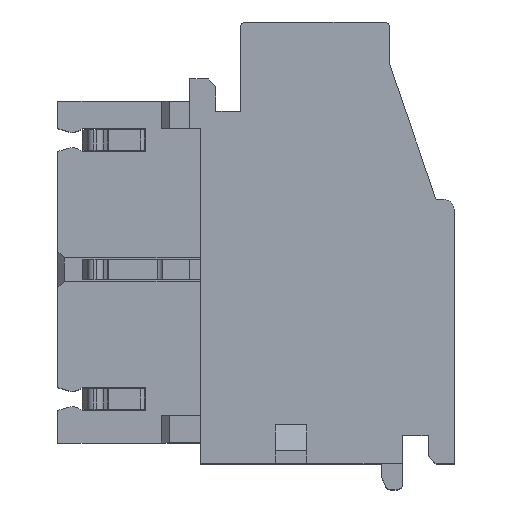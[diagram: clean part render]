
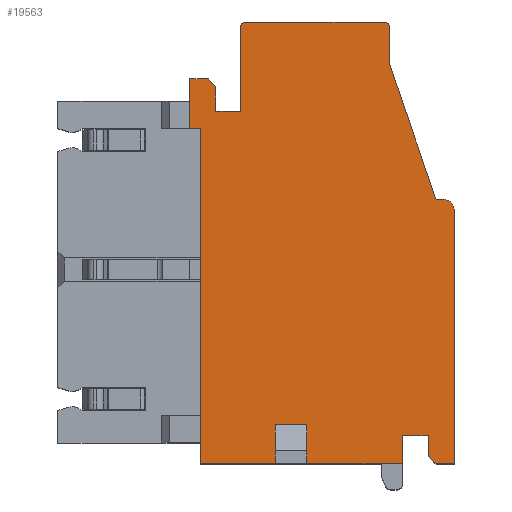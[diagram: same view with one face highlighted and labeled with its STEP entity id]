
A CAD part, top view. The second image highlights one B-rep face of the part: STEP entity #19563.
In plain terms, the highlighted planar face has unit normal (0, 0, 1).
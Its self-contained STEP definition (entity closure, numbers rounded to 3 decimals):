
#1=DIRECTION('',(-0.707,0.707,0.));
#2=VECTOR('',#1,0.424);
#3=CARTESIAN_POINT('',(0.6,14.55,7.5));
#4=LINE('',#3,#2);
#5=CARTESIAN_POINT('',(1.75,16.85,7.5));
#6=DIRECTION('',(0.,0.,1.));
#7=DIRECTION('',(0.,1.,0.));
#8=AXIS2_PLACEMENT_3D('',#5,#6,#7);
#10=CARTESIAN_POINT('',(7.1,16.85,7.5));
#11=DIRECTION('',(0.,0.,1.));
#12=DIRECTION('',(1.,0.,0.));
#13=AXIS2_PLACEMENT_3D('',#10,#11,#12);
#15=DIRECTION('',(-0.324,0.946,0.));
#16=VECTOR('',#15,5.55);
#17=CARTESIAN_POINT('',(9.1,10.2,7.5));
#18=LINE('',#17,#16);
#19=CARTESIAN_POINT('',(9.4,9.8,7.5));
#20=DIRECTION('',(0.,0.,1.));
#21=DIRECTION('',(1.,0.,0.));
#22=AXIS2_PLACEMENT_3D('',#19,#20,#21);
#24=DIRECTION('',(0.707,-0.707,0.));
#25=VECTOR('',#24,0.424);
#26=CARTESIAN_POINT('',(8.8,0.3,7.5));
#27=LINE('',#26,#25);
#28=DIRECTION('',(-1.,0.,0.));
#29=VECTOR('',#28,2.9);
#30=CARTESIAN_POINT('',(2.9,0.,7.5));
#31=LINE('',#30,#29);
#36=DIRECTION('',(-1.,0.,0.));
#37=VECTOR('',#36,3.7);
#38=CARTESIAN_POINT('',(7.8,0.,7.5));
#39=LINE('',#38,#37);
#151=DIRECTION('',(0.,1.,0.));
#152=VECTOR('',#151,0.8);
#153=CARTESIAN_POINT('',(8.8,0.3,7.5));
#154=LINE('',#153,#152);
#171=DIRECTION('',(-1.,0.,0.));
#172=VECTOR('',#171,1.);
#173=CARTESIAN_POINT('',(8.8,1.1,7.5));
#174=LINE('',#173,#172);
#179=DIRECTION('',(0.,-1.,0.));
#180=VECTOR('',#179,1.1);
#181=CARTESIAN_POINT('',(7.8,1.1,7.5));
#182=LINE('',#181,#180);
#699=DIRECTION('',(1.,0.,0.));
#700=VECTOR('',#699,5.35);
#701=CARTESIAN_POINT('',(1.75,17.05,7.5));
#702=LINE('',#701,#700);
#5087=DIRECTION('',(0.,-1.,0.));
#5088=VECTOR('',#5087,9.8);
#5089=CARTESIAN_POINT('',(9.8,9.8,7.5));
#5090=LINE('',#5089,#5088);
#10109=DIRECTION('',(0.,1.,0.));
#10110=VECTOR('',#10109,12.95);
#10111=CARTESIAN_POINT('',(0.,0.,7.5));
#10112=LINE('',#10111,#10110);
#10233=DIRECTION('',(-1.,0.,0.));
#10234=VECTOR('',#10233,0.4);
#10235=CARTESIAN_POINT('',(0.,12.95,7.5));
#10236=LINE('',#10235,#10234);
#11625=DIRECTION('',(0.,1.,0.));
#11626=VECTOR('',#11625,1.9);
#11627=CARTESIAN_POINT('',(-0.4,12.95,7.5));
#11628=LINE('',#11627,#11626);
#11637=DIRECTION('',(1.,0.,0.));
#11638=VECTOR('',#11637,0.7);
#11639=CARTESIAN_POINT('',(-0.4,14.85,7.5));
#11640=LINE('',#11639,#11638);
#11645=DIRECTION('',(0.,-1.,0.));
#11646=VECTOR('',#11645,0.95);
#11647=CARTESIAN_POINT('',(0.6,14.55,7.5));
#11648=LINE('',#11647,#11646);
#11661=DIRECTION('',(1.,0.,0.));
#11662=VECTOR('',#11661,0.95);
#11663=CARTESIAN_POINT('',(0.6,13.6,7.5));
#11664=LINE('',#11663,#11662);
#11669=DIRECTION('',(0.,1.,0.));
#11670=VECTOR('',#11669,3.25);
#11671=CARTESIAN_POINT('',(1.55,13.6,7.5));
#11672=LINE('',#11671,#11670);
#16075=DIRECTION('',(-1.,0.,0.));
#16076=VECTOR('',#16075,0.7);
#16077=CARTESIAN_POINT('',(9.8,0.,7.5));
#16078=LINE('',#16077,#16076);
#16091=DIRECTION('',(1.,0.,0.));
#16092=VECTOR('',#16091,0.3);
#16093=CARTESIAN_POINT('',(9.1,10.2,7.5));
#16094=LINE('',#16093,#16092);
#16107=DIRECTION('',(0.,-1.,0.));
#16108=VECTOR('',#16107,1.4);
#16109=CARTESIAN_POINT('',(7.3,16.85,7.5));
#16110=LINE('',#16109,#16108);
#16589=DIRECTION('',(0.,-1.,0.));
#16590=VECTOR('',#16589,1.5);
#16591=CARTESIAN_POINT('',(2.9,1.5,7.5));
#16592=LINE('',#16591,#16590);
#16597=DIRECTION('',(-1.,0.,0.));
#16598=VECTOR('',#16597,1.2);
#16599=CARTESIAN_POINT('',(4.1,1.5,7.5));
#16600=LINE('',#16599,#16598);
#16605=DIRECTION('',(0.,1.,0.));
#16606=VECTOR('',#16605,1.5);
#16607=CARTESIAN_POINT('',(4.1,0.,7.5));
#16608=LINE('',#16607,#16606);
#16625=CARTESIAN_POINT('',(4.1,0.,7.5));
#16626=CARTESIAN_POINT('',(4.1,1.5,7.5));
#16627=VERTEX_POINT('',#16625);
#16628=VERTEX_POINT('',#16626);
#16629=CARTESIAN_POINT('',(2.9,1.5,7.5));
#16630=VERTEX_POINT('',#16629);
#16631=CARTESIAN_POINT('',(2.9,0.,7.5));
#16632=VERTEX_POINT('',#16631);
#16633=CARTESIAN_POINT('',(0.,0.,7.5));
#16634=VERTEX_POINT('',#16633);
#16635=CARTESIAN_POINT('',(0.,12.95,7.5));
#16636=VERTEX_POINT('',#16635);
#16637=CARTESIAN_POINT('',(-0.4,12.95,7.5));
#16638=VERTEX_POINT('',#16637);
#16639=CARTESIAN_POINT('',(-0.4,14.85,7.5));
#16640=VERTEX_POINT('',#16639);
#16641=CARTESIAN_POINT('',(0.3,14.85,7.5));
#16642=VERTEX_POINT('',#16641);
#16643=CARTESIAN_POINT('',(0.6,14.55,7.5));
#16644=VERTEX_POINT('',#16643);
#16645=CARTESIAN_POINT('',(0.6,13.6,7.5));
#16646=VERTEX_POINT('',#16645);
#16647=CARTESIAN_POINT('',(1.55,13.6,7.5));
#16648=VERTEX_POINT('',#16647);
#16649=CARTESIAN_POINT('',(1.55,16.85,7.5));
#16650=VERTEX_POINT('',#16649);
#16651=CARTESIAN_POINT('',(1.75,17.05,7.5));
#16652=VERTEX_POINT('',#16651);
#16653=CARTESIAN_POINT('',(7.1,17.05,7.5));
#16654=VERTEX_POINT('',#16653);
#16655=CARTESIAN_POINT('',(7.3,16.85,7.5));
#16656=VERTEX_POINT('',#16655);
#16657=CARTESIAN_POINT('',(7.3,15.45,7.5));
#16658=VERTEX_POINT('',#16657);
#16659=CARTESIAN_POINT('',(9.1,10.2,7.5));
#16660=VERTEX_POINT('',#16659);
#16661=CARTESIAN_POINT('',(9.4,10.2,7.5));
#16662=VERTEX_POINT('',#16661);
#16663=CARTESIAN_POINT('',(9.8,9.8,7.5));
#16664=VERTEX_POINT('',#16663);
#16665=CARTESIAN_POINT('',(9.8,0.,7.5));
#16666=VERTEX_POINT('',#16665);
#16667=CARTESIAN_POINT('',(9.1,0.,7.5));
#16668=VERTEX_POINT('',#16667);
#16669=CARTESIAN_POINT('',(8.8,0.3,7.5));
#16670=VERTEX_POINT('',#16669);
#16671=CARTESIAN_POINT('',(8.8,1.1,7.5));
#16672=VERTEX_POINT('',#16671);
#16673=CARTESIAN_POINT('',(7.8,1.1,7.5));
#16674=VERTEX_POINT('',#16673);
#16675=CARTESIAN_POINT('',(7.8,0.,7.5));
#16676=VERTEX_POINT('',#16675);
#19504=CARTESIAN_POINT('',(0.,0.,7.5));
#19505=DIRECTION('',(0.,0.,1.));
#19506=DIRECTION('',(1.,0.,0.));
#19507=AXIS2_PLACEMENT_3D('',#19504,#19505,#19506);
#19508=PLANE('',#19507);
#19510=ORIENTED_EDGE('',*,*,#19509,.T.);
#19512=ORIENTED_EDGE('',*,*,#19511,.T.);
#19514=ORIENTED_EDGE('',*,*,#19513,.T.);
#19516=ORIENTED_EDGE('',*,*,#19515,.T.);
#19518=ORIENTED_EDGE('',*,*,#19517,.T.);
#19520=ORIENTED_EDGE('',*,*,#19519,.T.);
#19522=ORIENTED_EDGE('',*,*,#19521,.T.);
#19524=ORIENTED_EDGE('',*,*,#19523,.T.);
#19526=ORIENTED_EDGE('',*,*,#19525,.T.);
#19528=ORIENTED_EDGE('',*,*,#19527,.F.);
#19530=ORIENTED_EDGE('',*,*,#19529,.T.);
#19532=ORIENTED_EDGE('',*,*,#19531,.T.);
#19534=ORIENTED_EDGE('',*,*,#19533,.T.);
#19536=ORIENTED_EDGE('',*,*,#19535,.F.);
#19538=ORIENTED_EDGE('',*,*,#19537,.T.);
#19540=ORIENTED_EDGE('',*,*,#19539,.F.);
#19542=ORIENTED_EDGE('',*,*,#19541,.T.);
#19544=ORIENTED_EDGE('',*,*,#19543,.F.);
#19546=ORIENTED_EDGE('',*,*,#19545,.T.);
#19548=ORIENTED_EDGE('',*,*,#19547,.F.);
#19550=ORIENTED_EDGE('',*,*,#19549,.T.);
#19552=ORIENTED_EDGE('',*,*,#19551,.T.);
#19554=ORIENTED_EDGE('',*,*,#19553,.F.);
#19556=ORIENTED_EDGE('',*,*,#19555,.T.);
#19558=ORIENTED_EDGE('',*,*,#19557,.T.);
#19560=ORIENTED_EDGE('',*,*,#19559,.T.);
#19561=EDGE_LOOP('',(#19510,#19512,#19514,#19516,#19518,#19520,#19522,#19524,
#19526,#19528,#19530,#19532,#19534,#19536,#19538,#19540,#19542,#19544,#19546,
#19548,#19550,#19552,#19554,#19556,#19558,#19560));
#19562=FACE_OUTER_BOUND('',#19561,.F.);
#19563=ADVANCED_FACE('',(#19562),#19508,.T.);
#9=CIRCLE('',#8,0.2);
#14=CIRCLE('',#13,0.2);
#23=CIRCLE('',#22,0.4);
#19509=EDGE_CURVE('',#16676,#16627,#39,.T.);
#19511=EDGE_CURVE('',#16627,#16628,#16608,.T.);
#19513=EDGE_CURVE('',#16628,#16630,#16600,.T.);
#19515=EDGE_CURVE('',#16630,#16632,#16592,.T.);
#19517=EDGE_CURVE('',#16632,#16634,#31,.T.);
#19519=EDGE_CURVE('',#16634,#16636,#10112,.T.);
#19521=EDGE_CURVE('',#16636,#16638,#10236,.T.);
#19523=EDGE_CURVE('',#16638,#16640,#11628,.T.);
#19525=EDGE_CURVE('',#16640,#16642,#11640,.T.);
#19527=EDGE_CURVE('',#16644,#16642,#4,.T.);
#19529=EDGE_CURVE('',#16644,#16646,#11648,.T.);
#19531=EDGE_CURVE('',#16646,#16648,#11664,.T.);
#19533=EDGE_CURVE('',#16648,#16650,#11672,.T.);
#19535=EDGE_CURVE('',#16652,#16650,#9,.T.);
#19537=EDGE_CURVE('',#16652,#16654,#702,.T.);
#19539=EDGE_CURVE('',#16656,#16654,#14,.T.);
#19541=EDGE_CURVE('',#16656,#16658,#16110,.T.);
#19543=EDGE_CURVE('',#16660,#16658,#18,.T.);
#19545=EDGE_CURVE('',#16660,#16662,#16094,.T.);
#19547=EDGE_CURVE('',#16664,#16662,#23,.T.);
#19549=EDGE_CURVE('',#16664,#16666,#5090,.T.);
#19551=EDGE_CURVE('',#16666,#16668,#16078,.T.);
#19553=EDGE_CURVE('',#16670,#16668,#27,.T.);
#19555=EDGE_CURVE('',#16670,#16672,#154,.T.);
#19557=EDGE_CURVE('',#16672,#16674,#174,.T.);
#19559=EDGE_CURVE('',#16674,#16676,#182,.T.);
